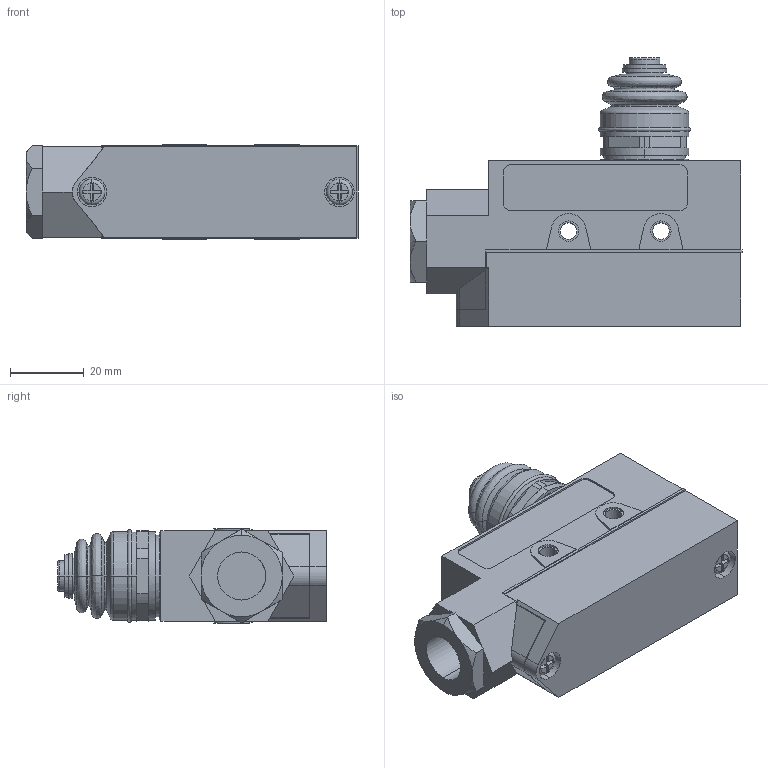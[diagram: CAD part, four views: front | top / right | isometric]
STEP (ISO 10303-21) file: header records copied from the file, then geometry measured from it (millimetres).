
FILE_DESCRIPTION (( 'STEP AP203' ), '1' );
FILE_NAME ('TZ-6101.STEP', '2019-03-27T12:58:41', ( '' ), ( '' ), 'SwSTEP 2.0', 'SolidWorks 2012', '' );
FILE_SCHEMA (( 'CONFIG_CONTROL_DESIGN' ));
Length unit declared in the file: millimetre
Products named in the file (1): TZ-6101
Bounding box: 89.9 x 72.8 x 25.5 mm (x, y, z)
Volume: 92404.9 mm3; surface area: 18638.4 mm2
Topology: 1 solids, 1 shells, 246 faces, 599 edges, 371 vertices
Faces by surface type: plane 152, cylinder 57, cone 17, torus 12, bspline 8
Entity records: 8594 total; most frequent: CARTESIAN_POINT 2779, ORIENTED_EDGE 1198, DIRECTION 1185, EDGE_CURVE 599, AXIS2_PLACEMENT_3D 413, VERTEX_POINT 371, LINE 359, VECTOR 359
